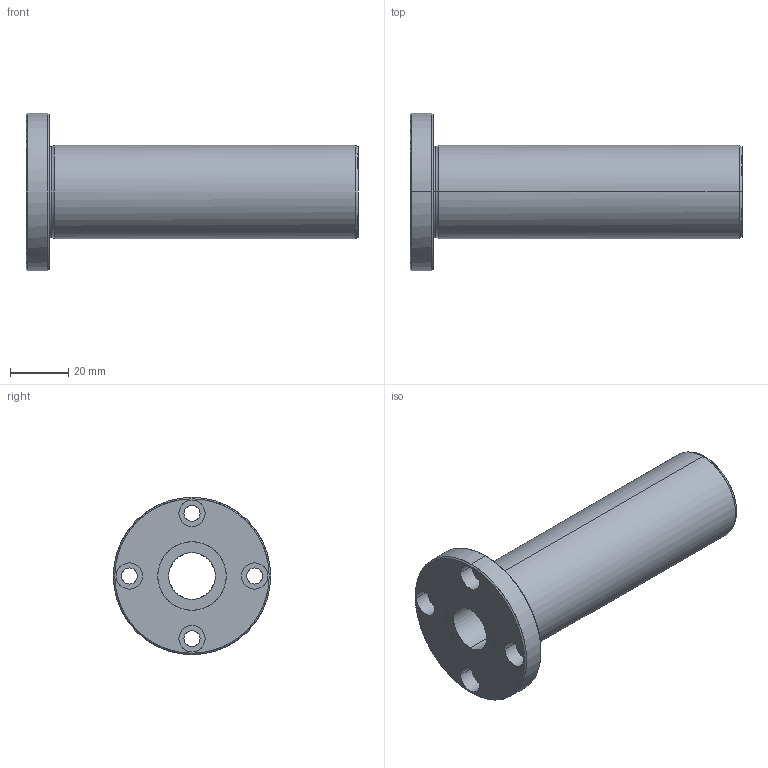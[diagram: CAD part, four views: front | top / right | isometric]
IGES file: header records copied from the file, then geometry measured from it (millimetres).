
Global section: file name: No Iges File Name specified; native system: AutoDesk Inventor R10; preprocessor: AutoDesk Inventor Iges Exporter R10; author: No Author specified; organization: No Organization specified; date: 20101216.172821; units: millimetre
Bounding box: 114 x 54 x 54 mm (x, y, z)
Surface area: 22416.2 mm2 (no closed solid volume)
Topology: 0 solids, 0 shells, 45 faces, 320 edges, 320 vertices
Faces by surface type: bspline 45
